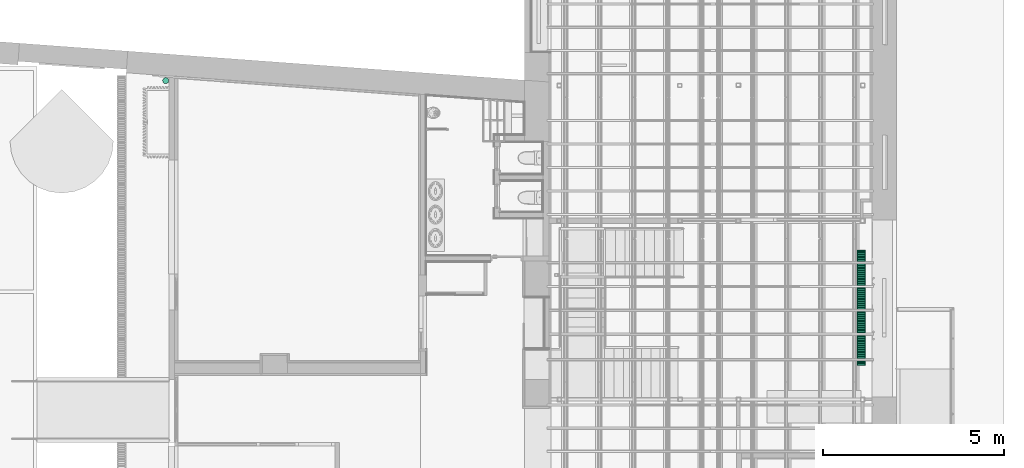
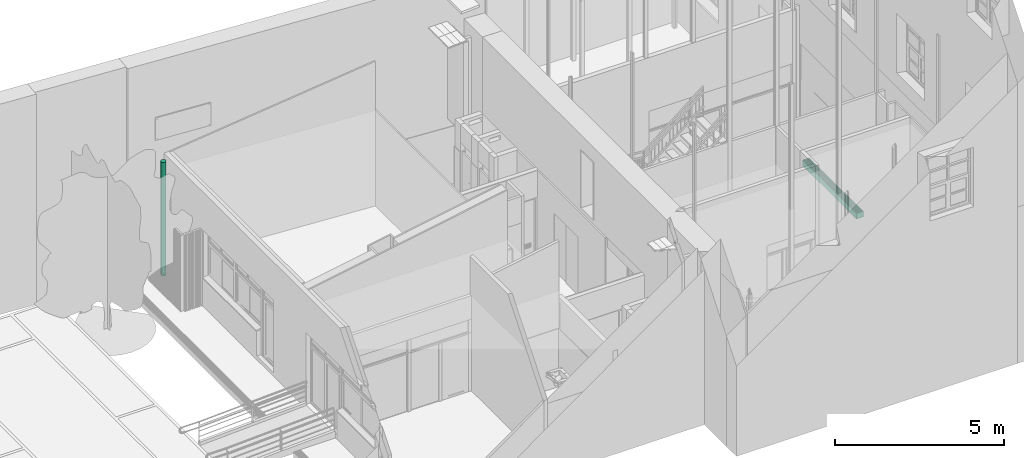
# One storey, part 60 of 75: 1 flow segment, 1 flow terminal.
"""IFC2X3 building model written with IfcOpenShell, lengths in metres."""

from ifc_helpers import new_model, entity, si_unit, converted_unit, derived_unit, direction, frame, frame_2d, origin, origin_2d_with_axis, place, context, subcontext, project, spatial, polyline, rectangle, circle, outline, extrude, source, transform, mapped, material, material_list, type_object, type_shapes, element, save


model = new_model("IFC2X3")

# Units and contexts
model_context = context("Model", 3, precision=1e-05, world=origin(), true_north=direction((6.12303176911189e-17, 1.0)))
body_context = subcontext(model_context, "Body", "Model", "MODEL_VIEW")
ifc_project = project(units=[si_unit("LENGTHUNIT", "METRE"), si_unit("AREAUNIT", "SQUARE_METRE"), si_unit("VOLUMEUNIT", "CUBIC_METRE"), converted_unit("PLANEANGLEUNIT", "DEGREE", entity("IfcRatioMeasure", 0.0174532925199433), si_unit("PLANEANGLEUNIT", "RADIAN"), dimensions=[0, 0, 0, 0, 0, 0, 0]), si_unit("MASSUNIT", "GRAM", prefix="KILO"), derived_unit("MASSDENSITYUNIT", [(si_unit("MASSUNIT", "GRAM", prefix="KILO"), 1), (si_unit("LENGTHUNIT", "METRE"), -3)]), derived_unit("MOMENTOFINERTIAUNIT", [(si_unit("LENGTHUNIT", "METRE"), 4)]), si_unit("TIMEUNIT", "SECOND"), si_unit("FREQUENCYUNIT", "HERTZ"), si_unit("THERMODYNAMICTEMPERATUREUNIT", "DEGREE_CELSIUS"), derived_unit("THERMALTRANSMITTANCEUNIT", [(si_unit("MASSUNIT", "GRAM", prefix="KILO"), 1), (si_unit("THERMODYNAMICTEMPERATUREUNIT", "KELVIN"), -1), (si_unit("TIMEUNIT", "SECOND"), -3)]), derived_unit("VOLUMETRICFLOWRATEUNIT", [(si_unit("LENGTHUNIT", "METRE"), 3), (si_unit("TIMEUNIT", "SECOND"), -1)]), si_unit("ELECTRICCURRENTUNIT", "AMPERE"), si_unit("ELECTRICVOLTAGEUNIT", "VOLT"), si_unit("POWERUNIT", "WATT"), si_unit("FORCEUNIT", "NEWTON", prefix="KILO"), si_unit("ILLUMINANCEUNIT", "LUX"), si_unit("LUMINOUSFLUXUNIT", "LUMEN"), si_unit("LUMINOUSINTENSITYUNIT", "CANDELA"), derived_unit("USERDEFINED", [(si_unit("MASSUNIT", "GRAM", prefix="KILO"), -1), (si_unit("LENGTHUNIT", "METRE"), -2), (si_unit("TIMEUNIT", "SECOND"), 3), (si_unit("LUMINOUSFLUXUNIT", "LUMEN"), 1)]), derived_unit("LINEARVELOCITYUNIT", [(si_unit("LENGTHUNIT", "METRE"), 1), (si_unit("TIMEUNIT", "SECOND"), -1)]), si_unit("PRESSUREUNIT", "PASCAL"), derived_unit("USERDEFINED", [(si_unit("LENGTHUNIT", "METRE"), -2), (si_unit("MASSUNIT", "GRAM", prefix="KILO"), 1), (si_unit("TIMEUNIT", "SECOND"), -2)]), derived_unit("LINEARFORCEUNIT", [(si_unit("MASSUNIT", "GRAM", prefix="KILO"), 1), (si_unit("LENGTHUNIT", "METRE"), 1), (si_unit("TIMEUNIT", "SECOND"), -2), (si_unit("LENGTHUNIT", "METRE"), -1)]), derived_unit("PLANARFORCEUNIT", [(si_unit("MASSUNIT", "GRAM", prefix="KILO"), 1), (si_unit("LENGTHUNIT", "METRE"), 1), (si_unit("TIMEUNIT", "SECOND"), -2), (si_unit("LENGTHUNIT", "METRE"), -2)])], contexts=[model_context])

# Site, building, storey
site_placement = place(None, origin())
site = spatial("IfcSite", under=ifc_project, at=site_placement, Name="Superficie", CompositionType="ELEMENT")
building_placement = place(site_placement, origin())
building = spatial("IfcBuilding", under=site, at=building_placement, Name="Telegestiones", CompositionType="ELEMENT")
storey_placement = place(building_placement, origin())
storey = spatial("IfcBuildingStorey", under=building, at=storey_placement, Name="Nivel 0_NPT", CompositionType="ELEMENT", Elevation=0.0)

# Flow segment
pipe_segment_type = type_object("IfcPipeSegmentType", Name="Tipos de tubería:Por defecto", PredefinedType="NOTDEFINED")
flow_segment_placement = place(storey_placement, origin())
element("IfcFlowSegment", 1, at=flow_segment_placement, inside=storey, type_object=pipe_segment_type, Name="Tipos de tubería:Por defecto", ObjectType="Tipos de tubería:Por defecto", context=body_context, shape_type="SweptSolid", body=[
    extrude(circle(Radius=0.0841375, at=origin_2d_with_axis()), frame((-4.58109799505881, 10.3132719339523, -0.28)), (0.0, 0.0, 1.0), 4.1),
])

# Flow terminal
ifc_material = material(Name="Acero")
ifc_material_list_1 = material_list([ifc_material, ifc_material, ifc_material, ifc_material, ifc_material, ifc_material, ifc_material, ifc_material, ifc_material, ifc_material, ifc_material, ifc_material, ifc_material, ifc_material, ifc_material, ifc_material, ifc_material, ifc_material, ifc_material, ifc_material, ifc_material, ifc_material, ifc_material, ifc_material, ifc_material, ifc_material, ifc_material, ifc_material, ifc_material, ifc_material, ifc_material, ifc_material, ifc_material, ifc_material, ifc_material, ifc_material, ifc_material, ifc_material, ifc_material, ifc_material, ifc_material, ifc_material, ifc_material, ifc_material, ifc_material, ifc_material, ifc_material, ifc_material, ifc_material, ifc_material, ifc_material, ifc_material, ifc_material])
ifc_material_list_2 = material_list([ifc_material, ifc_material, ifc_material, ifc_material, ifc_material, ifc_material, ifc_material, ifc_material, ifc_material, ifc_material, ifc_material, ifc_material, ifc_material, ifc_material, ifc_material, ifc_material, ifc_material, ifc_material, ifc_material, ifc_material, ifc_material, ifc_material, ifc_material, ifc_material, ifc_material, ifc_material, ifc_material, ifc_material, ifc_material, ifc_material, ifc_material, ifc_material, ifc_material, ifc_material, ifc_material, ifc_material, ifc_material, ifc_material, ifc_material, ifc_material, ifc_material, ifc_material, ifc_material, ifc_material, ifc_material, ifc_material, ifc_material, ifc_material, ifc_material, ifc_material, ifc_material, ifc_material, ifc_material])
distribution_element_type = type_object("IfcDistributionElementType", Name="ARQ-RE-EX-Ace:L=3.20m", material=ifc_material_list_2)
shared_shape = source(origin(), body_context, "Body", "SweptSolid", [
    extrude(rectangle(XDim=0.0200000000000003, YDim=0.200000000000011, at=origin_2d_with_axis()), frame((1.46880000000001, 0.0, -0.020000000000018), z_axis=(0.0, 0.0, 1.0), x_axis=(-1.0, 0.0, 0.0)), (0.0, 0.0, 1.0), 0.02),
    extrude(rectangle(XDim=0.0200000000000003, YDim=0.200000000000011, at=origin_2d_with_axis()), frame((1.40760000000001, 0.0, -0.020000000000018), z_axis=(0.0, 0.0, 1.0), x_axis=(-1.0, 0.0, 0.0)), (0.0, 0.0, 1.0), 0.02),
    extrude(rectangle(XDim=0.0200000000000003, YDim=0.200000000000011, at=origin_2d_with_axis()), frame((1.34640000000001, 0.0, -0.020000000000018), z_axis=(0.0, 0.0, 1.0), x_axis=(-1.0, 0.0, 0.0)), (0.0, 0.0, 1.0), 0.02),
    extrude(rectangle(XDim=0.0200000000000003, YDim=0.200000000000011, at=origin_2d_with_axis()), frame((1.28520000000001, 0.0, -0.020000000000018), z_axis=(0.0, 0.0, 1.0), x_axis=(-1.0, 0.0, 0.0)), (0.0, 0.0, 1.0), 0.02),
    extrude(rectangle(XDim=0.0200000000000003, YDim=0.200000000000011, at=origin_2d_with_axis()), frame((1.22400000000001, 0.0, -0.020000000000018), z_axis=(0.0, 0.0, 1.0), x_axis=(-1.0, 0.0, 0.0)), (0.0, 0.0, 1.0), 0.02),
    extrude(rectangle(XDim=0.0200000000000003, YDim=0.200000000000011, at=origin_2d_with_axis()), frame((1.16280000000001, 0.0, -0.020000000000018), z_axis=(0.0, 0.0, 1.0), x_axis=(-1.0, 0.0, 0.0)), (0.0, 0.0, 1.0), 0.02),
    extrude(rectangle(XDim=0.0200000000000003, YDim=0.200000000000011, at=origin_2d_with_axis()), frame((1.10160000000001, 0.0, -0.020000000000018), z_axis=(0.0, 0.0, 1.0), x_axis=(-1.0, 0.0, 0.0)), (0.0, 0.0, 1.0), 0.02),
    extrude(rectangle(XDim=0.0200000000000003, YDim=0.200000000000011, at=origin_2d_with_axis()), frame((1.04040000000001, 0.0, -0.020000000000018), z_axis=(0.0, 0.0, 1.0), x_axis=(-1.0, 0.0, 0.0)), (0.0, 0.0, 1.0), 0.02),
    extrude(rectangle(XDim=0.0200000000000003, YDim=0.200000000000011, at=origin_2d_with_axis()), frame((0.979200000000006, 0.0, -0.020000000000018), z_axis=(0.0, 0.0, 1.0), x_axis=(-1.0, 0.0, 0.0)), (0.0, 0.0, 1.0), 0.02),
    extrude(rectangle(XDim=0.0200000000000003, YDim=0.200000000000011, at=origin_2d_with_axis()), frame((0.918000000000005, 0.0, -0.020000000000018), z_axis=(0.0, 0.0, 1.0), x_axis=(-1.0, 0.0, 0.0)), (0.0, 0.0, 1.0), 0.02),
    extrude(rectangle(XDim=0.0200000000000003, YDim=0.200000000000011, at=origin_2d_with_axis()), frame((0.856800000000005, 0.0, -0.020000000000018), z_axis=(0.0, 0.0, 1.0), x_axis=(-1.0, 0.0, 0.0)), (0.0, 0.0, 1.0), 0.02),
    extrude(rectangle(XDim=0.0200000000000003, YDim=0.200000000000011, at=origin_2d_with_axis()), frame((0.795600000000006, 0.0, -0.020000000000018), z_axis=(0.0, 0.0, 1.0), x_axis=(-1.0, 0.0, 0.0)), (0.0, 0.0, 1.0), 0.02),
    extrude(rectangle(XDim=0.0200000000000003, YDim=0.200000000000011, at=origin_2d_with_axis()), frame((0.734400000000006, 0.0, -0.020000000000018), z_axis=(0.0, 0.0, 1.0), x_axis=(-1.0, 0.0, 0.0)), (0.0, 0.0, 1.0), 0.02),
    extrude(rectangle(XDim=0.0200000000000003, YDim=0.200000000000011, at=origin_2d_with_axis()), frame((0.673200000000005, 0.0, -0.020000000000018), z_axis=(0.0, 0.0, 1.0), x_axis=(-1.0, 0.0, 0.0)), (0.0, 0.0, 1.0), 0.02),
    extrude(rectangle(XDim=0.0200000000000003, YDim=0.200000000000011, at=origin_2d_with_axis()), frame((0.612000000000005, 0.0, -0.020000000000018), z_axis=(0.0, 0.0, 1.0), x_axis=(-1.0, 0.0, 0.0)), (0.0, 0.0, 1.0), 0.02),
    extrude(rectangle(XDim=0.0200000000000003, YDim=0.200000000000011, at=origin_2d_with_axis()), frame((0.550800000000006, 0.0, -0.020000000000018), z_axis=(0.0, 0.0, 1.0), x_axis=(-1.0, 0.0, 0.0)), (0.0, 0.0, 1.0), 0.02),
    extrude(rectangle(XDim=0.0200000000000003, YDim=0.200000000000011, at=origin_2d_with_axis()), frame((0.489600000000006, 0.0, -0.020000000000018), z_axis=(0.0, 0.0, 1.0), x_axis=(-1.0, 0.0, 0.0)), (0.0, 0.0, 1.0), 0.02),
    extrude(rectangle(XDim=0.0200000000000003, YDim=0.200000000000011, at=origin_2d_with_axis()), frame((0.428400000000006, 0.0, -0.020000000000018), z_axis=(0.0, 0.0, 1.0), x_axis=(-1.0, 0.0, 0.0)), (0.0, 0.0, 1.0), 0.02),
    extrude(rectangle(XDim=0.0200000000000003, YDim=0.200000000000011, at=origin_2d_with_axis()), frame((0.367200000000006, 0.0, -0.020000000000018), z_axis=(0.0, 0.0, 1.0), x_axis=(-1.0, 0.0, 0.0)), (0.0, 0.0, 1.0), 0.02),
    extrude(rectangle(XDim=0.0200000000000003, YDim=0.200000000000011, at=origin_2d_with_axis()), frame((0.306000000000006, 0.0, -0.020000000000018), z_axis=(0.0, 0.0, 1.0), x_axis=(-1.0, 0.0, 0.0)), (0.0, 0.0, 1.0), 0.02),
    extrude(rectangle(XDim=0.0200000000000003, YDim=0.200000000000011, at=origin_2d_with_axis()), frame((0.244800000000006, 0.0, -0.020000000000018), z_axis=(0.0, 0.0, 1.0), x_axis=(-1.0, 0.0, 0.0)), (0.0, 0.0, 1.0), 0.02),
    extrude(rectangle(XDim=0.0200000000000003, YDim=0.200000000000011, at=origin_2d_with_axis()), frame((0.183600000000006, 0.0, -0.020000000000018), z_axis=(0.0, 0.0, 1.0), x_axis=(-1.0, 0.0, 0.0)), (0.0, 0.0, 1.0), 0.02),
    extrude(rectangle(XDim=0.0200000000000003, YDim=0.200000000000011, at=origin_2d_with_axis()), frame((0.122400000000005, 0.0, -0.020000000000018), z_axis=(0.0, 0.0, 1.0), x_axis=(-1.0, 0.0, 0.0)), (0.0, 0.0, 1.0), 0.02),
    extrude(rectangle(XDim=0.0200000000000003, YDim=0.200000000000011, at=origin_2d_with_axis()), frame((0.0612000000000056, 0.0, -0.020000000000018), z_axis=(0.0, 0.0, 1.0), x_axis=(-1.0, 0.0, 0.0)), (0.0, 0.0, 1.0), 0.02),
    extrude(rectangle(XDim=0.0200000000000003, YDim=0.200000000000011, at=origin_2d_with_axis()), frame((0.0, 0.0, -0.020000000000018), z_axis=(0.0, 0.0, 1.0), x_axis=(-1.0, 0.0, 0.0)), (0.0, 0.0, 1.0), 0.02),
    extrude(rectangle(XDim=0.0200000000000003, YDim=0.200000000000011, at=origin_2d_with_axis()), frame((-0.0611999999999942, 0.0, -0.020000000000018), z_axis=(0.0, 0.0, 1.0), x_axis=(-1.0, 0.0, 0.0)), (0.0, 0.0, 1.0), 0.02),
    extrude(rectangle(XDim=0.0200000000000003, YDim=0.200000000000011, at=origin_2d_with_axis()), frame((-0.122399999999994, 0.0, -0.020000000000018), z_axis=(0.0, 0.0, 1.0), x_axis=(-1.0, 0.0, 0.0)), (0.0, 0.0, 1.0), 0.02),
    extrude(rectangle(XDim=0.0200000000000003, YDim=0.200000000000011, at=origin_2d_with_axis()), frame((-0.183599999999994, 0.0, -0.020000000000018), z_axis=(0.0, 0.0, 1.0), x_axis=(-1.0, 0.0, 0.0)), (0.0, 0.0, 1.0), 0.02),
    extrude(rectangle(XDim=0.0200000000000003, YDim=0.200000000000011, at=origin_2d_with_axis()), frame((-0.244799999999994, 0.0, -0.020000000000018), z_axis=(0.0, 0.0, 1.0), x_axis=(-1.0, 0.0, 0.0)), (0.0, 0.0, 1.0), 0.02),
    extrude(rectangle(XDim=0.0200000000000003, YDim=0.200000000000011, at=origin_2d_with_axis()), frame((-0.305999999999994, 0.0, -0.020000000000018), z_axis=(0.0, 0.0, 1.0), x_axis=(-1.0, 0.0, 0.0)), (0.0, 0.0, 1.0), 0.02),
    extrude(rectangle(XDim=0.0200000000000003, YDim=0.200000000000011, at=origin_2d_with_axis()), frame((-0.367199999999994, 0.0, -0.020000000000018), z_axis=(0.0, 0.0, 1.0), x_axis=(-1.0, 0.0, 0.0)), (0.0, 0.0, 1.0), 0.02),
    extrude(rectangle(XDim=0.0200000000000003, YDim=0.200000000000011, at=origin_2d_with_axis()), frame((-0.428399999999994, 0.0, -0.020000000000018), z_axis=(0.0, 0.0, 1.0), x_axis=(-1.0, 0.0, 0.0)), (0.0, 0.0, 1.0), 0.02),
    extrude(rectangle(XDim=0.0200000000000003, YDim=0.200000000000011, at=origin_2d_with_axis()), frame((-0.489599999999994, 0.0, -0.020000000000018), z_axis=(0.0, 0.0, 1.0), x_axis=(-1.0, 0.0, 0.0)), (0.0, 0.0, 1.0), 0.02),
    extrude(rectangle(XDim=0.0200000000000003, YDim=0.200000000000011, at=origin_2d_with_axis()), frame((-0.550799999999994, 0.0, -0.020000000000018), z_axis=(0.0, 0.0, 1.0), x_axis=(-1.0, 0.0, 0.0)), (0.0, 0.0, 1.0), 0.02),
    extrude(rectangle(XDim=0.0200000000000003, YDim=0.200000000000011, at=origin_2d_with_axis()), frame((-0.611999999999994, 0.0, -0.020000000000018), z_axis=(0.0, 0.0, 1.0), x_axis=(-1.0, 0.0, 0.0)), (0.0, 0.0, 1.0), 0.02),
    extrude(rectangle(XDim=0.0200000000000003, YDim=0.200000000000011, at=origin_2d_with_axis()), frame((-0.673199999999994, 0.0, -0.020000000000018), z_axis=(0.0, 0.0, 1.0), x_axis=(-1.0, 0.0, 0.0)), (0.0, 0.0, 1.0), 0.02),
    extrude(rectangle(XDim=0.0200000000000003, YDim=0.200000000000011, at=origin_2d_with_axis()), frame((-0.734399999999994, 0.0, -0.020000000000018), z_axis=(0.0, 0.0, 1.0), x_axis=(-1.0, 0.0, 0.0)), (0.0, 0.0, 1.0), 0.02),
    extrude(rectangle(XDim=0.0200000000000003, YDim=0.200000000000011, at=origin_2d_with_axis()), frame((-0.795599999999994, 0.0, -0.020000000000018), z_axis=(0.0, 0.0, 1.0), x_axis=(-1.0, 0.0, 0.0)), (0.0, 0.0, 1.0), 0.02),
    extrude(rectangle(XDim=0.0200000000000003, YDim=0.200000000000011, at=origin_2d_with_axis()), frame((-0.856799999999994, 0.0, -0.020000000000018), z_axis=(0.0, 0.0, 1.0), x_axis=(-1.0, 0.0, 0.0)), (0.0, 0.0, 1.0), 0.02),
    extrude(rectangle(XDim=0.0200000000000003, YDim=0.200000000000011, at=origin_2d_with_axis()), frame((-0.917999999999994, 0.0, -0.020000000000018), z_axis=(0.0, 0.0, 1.0), x_axis=(-1.0, 0.0, 0.0)), (0.0, 0.0, 1.0), 0.02),
    extrude(rectangle(XDim=0.0200000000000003, YDim=0.200000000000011, at=origin_2d_with_axis()), frame((-0.979199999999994, 0.0, -0.020000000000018), z_axis=(0.0, 0.0, 1.0), x_axis=(-1.0, 0.0, 0.0)), (0.0, 0.0, 1.0), 0.02),
    extrude(rectangle(XDim=0.0200000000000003, YDim=0.200000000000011, at=origin_2d_with_axis()), frame((-1.04039999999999, 0.0, -0.020000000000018), z_axis=(0.0, 0.0, 1.0), x_axis=(-1.0, 0.0, 0.0)), (0.0, 0.0, 1.0), 0.02),
    extrude(rectangle(XDim=0.0200000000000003, YDim=0.200000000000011, at=origin_2d_with_axis()), frame((-1.10159999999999, 0.0, -0.020000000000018), z_axis=(0.0, 0.0, 1.0), x_axis=(-1.0, 0.0, 0.0)), (0.0, 0.0, 1.0), 0.02),
    extrude(rectangle(XDim=0.0200000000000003, YDim=0.200000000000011, at=origin_2d_with_axis()), frame((-1.16279999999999, 0.0, -0.020000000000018), z_axis=(0.0, 0.0, 1.0), x_axis=(-1.0, 0.0, 0.0)), (0.0, 0.0, 1.0), 0.02),
    extrude(rectangle(XDim=0.0200000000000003, YDim=0.200000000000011, at=origin_2d_with_axis()), frame((-1.22399999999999, 0.0, -0.020000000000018), z_axis=(0.0, 0.0, 1.0), x_axis=(-1.0, 0.0, 0.0)), (0.0, 0.0, 1.0), 0.02),
    extrude(rectangle(XDim=0.0200000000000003, YDim=0.200000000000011, at=origin_2d_with_axis()), frame((-1.28519999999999, 0.0, -0.020000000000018), z_axis=(0.0, 0.0, 1.0), x_axis=(-1.0, 0.0, 0.0)), (0.0, 0.0, 1.0), 0.02),
    extrude(rectangle(XDim=0.0200000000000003, YDim=0.200000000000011, at=origin_2d_with_axis()), frame((-1.34639999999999, 0.0, -0.020000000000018), z_axis=(0.0, 0.0, 1.0), x_axis=(-1.0, 0.0, 0.0)), (0.0, 0.0, 1.0), 0.02),
    extrude(rectangle(XDim=0.0200000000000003, YDim=0.200000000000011, at=origin_2d_with_axis()), frame((-1.40759999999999, 0.0, -0.020000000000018), z_axis=(0.0, 0.0, 1.0), x_axis=(-1.0, 0.0, 0.0)), (0.0, 0.0, 1.0), 0.02),
    extrude(rectangle(XDim=0.0200000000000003, YDim=0.200000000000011, at=origin_2d_with_axis()), frame((-1.46879999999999, 0.0, -0.020000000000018), z_axis=(0.0, 0.0, 1.0), x_axis=(-1.0, 0.0, 0.0)), (0.0, 0.0, 1.0), 0.02),
    extrude(rectangle(XDim=0.0200000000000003, YDim=0.200000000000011, at=origin_2d_with_axis()), frame((1.53000000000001, 0.0, -0.020000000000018), z_axis=(0.0, 0.0, 1.0), x_axis=(-1.0, 0.0, 0.0)), (0.0, 0.0, 1.0), 0.02),
    extrude(rectangle(XDim=0.0200000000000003, YDim=0.200000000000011, at=origin_2d_with_axis()), frame((-1.52999999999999, 0.0, -0.020000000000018), z_axis=(0.0, 0.0, 1.0), x_axis=(-1.0, 0.0, 0.0)), (0.0, 0.0, 1.0), 0.02),
    extrude(rectangle(XDim=3.16, YDim=0.200000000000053, at=frame_2d((0.0, 1.38777878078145e-17), x_axis=(1.0, 0.0))), frame((0.0, 0.0, -0.200000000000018), z_axis=(0.0, 0.0, 1.0), x_axis=(-1.0, 0.0, 0.0)), (0.0, 0.0, 1.0), 0.02),
    extrude(outline(polyline([(-1.6, -0.12), (1.6, -0.12), (1.6, 0.12), (-1.6, 0.12), (-1.6, -0.12)]), holes=[polyline([(-1.58, -0.100000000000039), (-1.58, 0.100000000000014), (1.58, 0.100000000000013), (1.58, -0.100000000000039), (-1.58, -0.100000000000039)])]), frame((0.0, 0.0, -0.200000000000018), z_axis=(0.0, 0.0, 1.0), x_axis=(-1.0, 0.0, 0.0)), (0.0, 0.0, 1.0), 0.2),
])
type_shapes(distribution_element_type, [shared_shape])
flow_terminal_placement = place(storey_placement, frame((14.6720691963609, 4.02403678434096, 0.0), z_axis=(0.0, 0.0, 1.0), x_axis=(0.0, 1.0, 0.0)))
element("IfcFlowTerminal", 2, at=flow_terminal_placement, inside=storey, type_object=distribution_element_type, material=ifc_material_list_1, Name="ARQ-RE-EX-Ace:L=3.20m", ObjectType="ARQ-RE-EX-Ace:L=3.20m", context=body_context, shape_type="MappedRepresentation", body=[
    mapped(shared_shape, transform((0.0, 0.0, 0.0), scale=1.0)),
])

save(model, "model.ifc")
